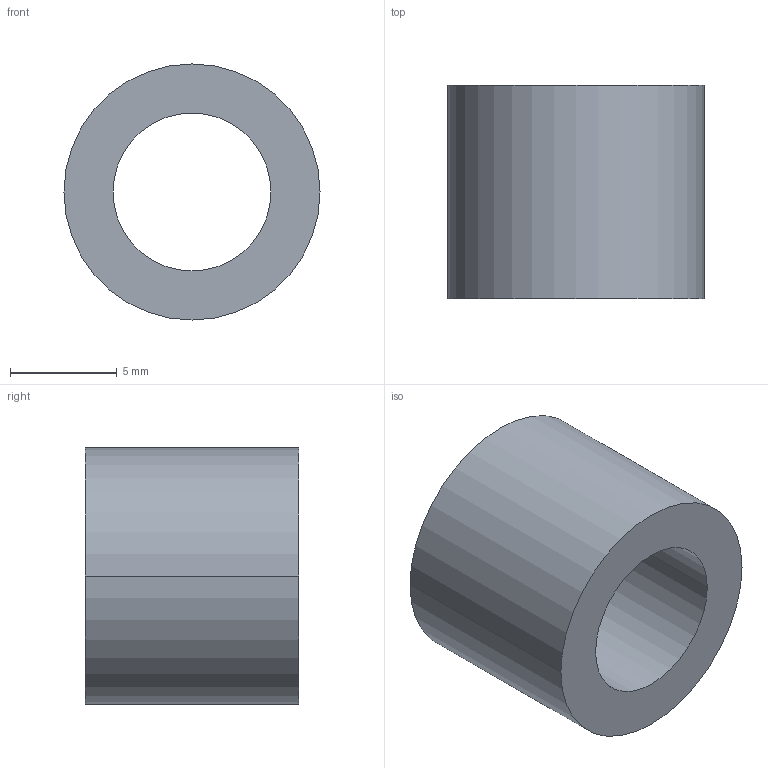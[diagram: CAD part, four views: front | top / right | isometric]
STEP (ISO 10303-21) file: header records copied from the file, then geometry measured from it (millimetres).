
FILE_DESCRIPTION (( 'STEP AP203' ), '1' );
FILE_NAME ('30800.WPP12D7.4.step', '2019-01-23T22:27:50', ( '' ), ( '' ), 'SwSTEP 2.0', 'SolidWorks 2017', '' );
FILE_SCHEMA (( 'CONFIG_CONTROL_DESIGN' ));
Length unit declared in the file: millimetre
Products named in the file (1): 30800.WPP12D7.4
Bounding box: 12 x 10 x 12 mm (x, y, z)
Volume: 688.6 mm3; surface area: 735.7 mm2
Topology: 1 solids, 1 shells, 8 faces, 16 edges, 10 vertices
Faces by surface type: cylinder 4, torus 2, plane 2
Entity records: 297 total; most frequent: DIRECTION 46, CARTESIAN_POINT 35, ORIENTED_EDGE 32, AXIS2_PLACEMENT_3D 21, EDGE_CURVE 16, CIRCLE 12, EDGE_LOOP 10, VERTEX_POINT 10
